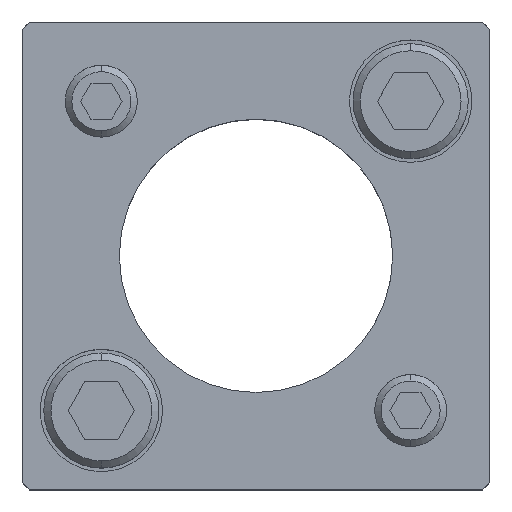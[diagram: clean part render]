
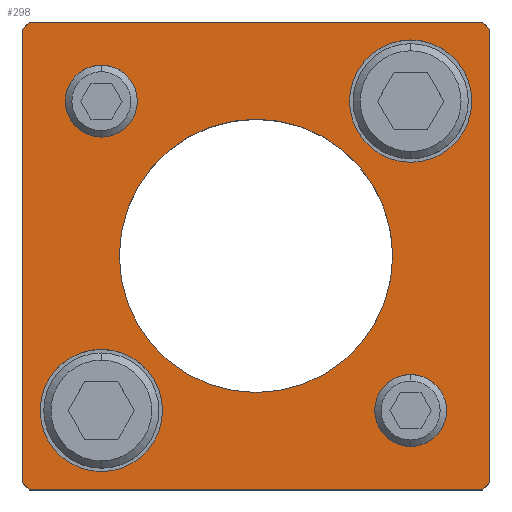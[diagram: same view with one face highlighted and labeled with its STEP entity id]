
A CAD part, top view. The second image highlights one B-rep face of the part: STEP entity #298.
In plain terms, the highlighted planar face has unit normal (0, 0, 1).
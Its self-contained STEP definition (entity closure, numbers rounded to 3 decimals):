
#155=PLANE('',#2461);
#222=FACE_BOUND('',#611,.T.);
#223=FACE_BOUND('',#612,.T.);
#224=FACE_BOUND('',#613,.T.);
#225=FACE_BOUND('',#614,.T.);
#226=FACE_BOUND('',#615,.T.);
#227=FACE_BOUND('',#616,.T.);
#298=ADVANCED_FACE('',(#222,#223,#224,#225,#226,#227),#155,.T.);
#611=EDGE_LOOP('',(#1294,#1295,#1296,#1297,#1298,#1299,#1300,#1301));
#612=EDGE_LOOP('',(#1302,#1303));
#613=EDGE_LOOP('',(#1304,#1305));
#614=EDGE_LOOP('',(#1306,#1307));
#615=EDGE_LOOP('',(#1308,#1309));
#616=EDGE_LOOP('',(#1310,#1311));
#763=LINE('',#3582,#950);
#764=LINE('',#3585,#951);
#765=LINE('',#3587,#952);
#766=LINE('',#3589,#953);
#767=LINE('',#3591,#954);
#768=LINE('',#3593,#955);
#769=LINE('',#3595,#956);
#770=LINE('',#3597,#957);
#950=VECTOR('',#2866,1.);
#951=VECTOR('',#2867,1.);
#952=VECTOR('',#2868,1.);
#953=VECTOR('',#2869,1.);
#954=VECTOR('',#2870,1.);
#955=VECTOR('',#2871,1.);
#956=VECTOR('',#2872,1.);
#957=VECTOR('',#2873,1.);
#1294=ORIENTED_EDGE('',*,*,#2028,.T.);
#1295=ORIENTED_EDGE('',*,*,#2029,.T.);
#1296=ORIENTED_EDGE('',*,*,#2030,.T.);
#1297=ORIENTED_EDGE('',*,*,#2031,.T.);
#1298=ORIENTED_EDGE('',*,*,#2032,.T.);
#1299=ORIENTED_EDGE('',*,*,#2033,.T.);
#1300=ORIENTED_EDGE('',*,*,#2034,.T.);
#1301=ORIENTED_EDGE('',*,*,#2035,.T.);
#1302=ORIENTED_EDGE('',*,*,#2036,.F.);
#1303=ORIENTED_EDGE('',*,*,#2037,.F.);
#1304=ORIENTED_EDGE('',*,*,#2038,.F.);
#1305=ORIENTED_EDGE('',*,*,#2039,.F.);
#1306=ORIENTED_EDGE('',*,*,#2014,.F.);
#1307=ORIENTED_EDGE('',*,*,#2010,.F.);
#1308=ORIENTED_EDGE('',*,*,#2008,.F.);
#1309=ORIENTED_EDGE('',*,*,#2004,.F.);
#1310=ORIENTED_EDGE('',*,*,#2040,.T.);
#1311=ORIENTED_EDGE('',*,*,#2041,.T.);
#1774=VERTEX_POINT('',#3533);
#1775=VERTEX_POINT('',#3534);
#1778=VERTEX_POINT('',#3546);
#1779=VERTEX_POINT('',#3547);
#1790=VERTEX_POINT('',#3583);
#1791=VERTEX_POINT('',#3584);
#1792=VERTEX_POINT('',#3586);
#1793=VERTEX_POINT('',#3588);
#1794=VERTEX_POINT('',#3590);
#1795=VERTEX_POINT('',#3592);
#1796=VERTEX_POINT('',#3594);
#1797=VERTEX_POINT('',#3596);
#1798=VERTEX_POINT('',#3599);
#1799=VERTEX_POINT('',#3600);
#1800=VERTEX_POINT('',#3603);
#1801=VERTEX_POINT('',#3604);
#1802=VERTEX_POINT('',#3607);
#1803=VERTEX_POINT('',#3608);
#2004=EDGE_CURVE('',#1774,#1775,#2273,.T.);
#2008=EDGE_CURVE('',#1775,#1774,#2275,.T.);
#2010=EDGE_CURVE('',#1778,#1779,#2277,.T.);
#2014=EDGE_CURVE('',#1779,#1778,#2279,.T.);
#2028=EDGE_CURVE('',#1790,#1791,#763,.T.);
#2029=EDGE_CURVE('',#1791,#1792,#764,.T.);
#2030=EDGE_CURVE('',#1792,#1793,#765,.T.);
#2031=EDGE_CURVE('',#1793,#1794,#766,.T.);
#2032=EDGE_CURVE('',#1794,#1795,#767,.T.);
#2033=EDGE_CURVE('',#1795,#1796,#768,.T.);
#2034=EDGE_CURVE('',#1796,#1797,#769,.T.);
#2035=EDGE_CURVE('',#1797,#1790,#770,.T.);
#2036=EDGE_CURVE('',#1798,#1799,#2289,.T.);
#2037=EDGE_CURVE('',#1799,#1798,#2290,.T.);
#2038=EDGE_CURVE('',#1800,#1801,#2291,.T.);
#2039=EDGE_CURVE('',#1801,#1800,#2292,.T.);
#2040=EDGE_CURVE('',#1802,#1803,#2293,.T.);
#2041=EDGE_CURVE('',#1803,#1802,#2294,.T.);
#2273=CIRCLE('',#2429,5.);
#2275=CIRCLE('',#2432,5.);
#2277=CIRCLE('',#2436,5.);
#2279=CIRCLE('',#2439,5.);
#2289=CIRCLE('',#2455,8.5);
#2290=CIRCLE('',#2456,8.5);
#2291=CIRCLE('',#2457,8.5);
#2292=CIRCLE('',#2458,8.5);
#2293=CIRCLE('',#2459,19.);
#2294=CIRCLE('',#2460,19.);
#2429=AXIS2_PLACEMENT_3D('',#3532,#2806,#2807);
#2432=AXIS2_PLACEMENT_3D('',#3541,#2814,#2815);
#2436=AXIS2_PLACEMENT_3D('',#3545,#2822,#2823);
#2439=AXIS2_PLACEMENT_3D('',#3554,#2830,#2831);
#2455=AXIS2_PLACEMENT_3D('',#3598,#2874,#2875);
#2456=AXIS2_PLACEMENT_3D('',#3601,#2876,#2877);
#2457=AXIS2_PLACEMENT_3D('',#3602,#2878,#2879);
#2458=AXIS2_PLACEMENT_3D('',#3605,#2880,#2881);
#2459=AXIS2_PLACEMENT_3D('',#3606,#2882,#2883);
#2460=AXIS2_PLACEMENT_3D('',#3609,#2884,#2885);
#2461=AXIS2_PLACEMENT_3D('',#3610,#2886,#2887);
#2806=DIRECTION('',(0.,0.,1.));
#2807=DIRECTION('',(-1.,0.,0.));
#2814=DIRECTION('',(0.,0.,1.));
#2815=DIRECTION('',(1.,0.,0.));
#2822=DIRECTION('',(0.,0.,1.));
#2823=DIRECTION('',(-1.,0.,0.));
#2830=DIRECTION('',(0.,0.,1.));
#2831=DIRECTION('',(1.,0.,0.));
#2866=DIRECTION('',(0.707,0.707,0.));
#2867=DIRECTION('',(0.,1.,0.));
#2868=DIRECTION('',(-0.707,0.707,0.));
#2869=DIRECTION('',(-1.,0.,0.));
#2870=DIRECTION('',(-0.707,-0.707,0.));
#2871=DIRECTION('',(0.,-1.,0.));
#2872=DIRECTION('',(0.707,-0.707,0.));
#2873=DIRECTION('',(1.,0.,0.));
#2874=DIRECTION('',(0.,0.,1.));
#2875=DIRECTION('',(1.,0.,0.));
#2876=DIRECTION('',(0.,0.,1.));
#2877=DIRECTION('',(-1.,0.,0.));
#2878=DIRECTION('',(0.,0.,1.));
#2879=DIRECTION('',(1.,0.,0.));
#2880=DIRECTION('',(0.,0.,1.));
#2881=DIRECTION('',(-1.,0.,0.));
#2882=DIRECTION('',(0.,0.,-1.));
#2883=DIRECTION('',(-1.,0.,0.));
#2884=DIRECTION('',(0.,0.,-1.));
#2885=DIRECTION('',(1.,0.,0.));
#2886=DIRECTION('',(0.,0.,1.));
#2887=DIRECTION('',(-1.,0.,0.));
#3532=CARTESIAN_POINT('',(21.5,-21.5,30.));
#3533=CARTESIAN_POINT('',(21.5,-26.5,30.));
#3534=CARTESIAN_POINT('',(21.5,-16.5,30.));
#3541=CARTESIAN_POINT('',(21.5,-21.5,30.));
#3545=CARTESIAN_POINT('',(-21.5,21.5,30.));
#3546=CARTESIAN_POINT('',(-21.5,16.5,30.));
#3547=CARTESIAN_POINT('',(-21.5,26.5,30.));
#3554=CARTESIAN_POINT('',(-21.5,21.5,30.));
#3582=CARTESIAN_POINT('',(31.5,-32.5,30.));
#3583=CARTESIAN_POINT('',(31.5,-32.5,30.));
#3584=CARTESIAN_POINT('',(32.5,-31.5,30.));
#3585=CARTESIAN_POINT('',(32.5,31.5,30.));
#3586=CARTESIAN_POINT('',(32.5,31.5,30.));
#3587=CARTESIAN_POINT('',(32.5,31.5,30.));
#3588=CARTESIAN_POINT('',(31.5,32.5,30.));
#3589=CARTESIAN_POINT('',(-31.5,32.5,30.));
#3590=CARTESIAN_POINT('',(-31.5,32.5,30.));
#3591=CARTESIAN_POINT('',(-31.5,32.5,30.));
#3592=CARTESIAN_POINT('',(-32.5,31.5,30.));
#3593=CARTESIAN_POINT('',(-32.5,31.5,30.));
#3594=CARTESIAN_POINT('',(-32.5,-31.5,30.));
#3595=CARTESIAN_POINT('',(-32.5,-31.5,30.));
#3596=CARTESIAN_POINT('',(-31.5,-32.5,30.));
#3597=CARTESIAN_POINT('',(-31.5,-32.5,30.));
#3598=CARTESIAN_POINT('',(21.5,21.5,30.));
#3599=CARTESIAN_POINT('',(21.5,30.,30.));
#3600=CARTESIAN_POINT('',(21.5,13.,30.));
#3601=CARTESIAN_POINT('',(21.5,21.5,30.));
#3602=CARTESIAN_POINT('',(-21.5,-21.5,30.));
#3603=CARTESIAN_POINT('',(-21.5,-13.,30.));
#3604=CARTESIAN_POINT('',(-21.5,-30.,30.));
#3605=CARTESIAN_POINT('',(-21.5,-21.5,30.));
#3606=CARTESIAN_POINT('',(0.,0.,30.));
#3607=CARTESIAN_POINT('',(0.,19.,30.));
#3608=CARTESIAN_POINT('',(0.,-19.,30.));
#3609=CARTESIAN_POINT('',(0.,0.,30.));
#3610=CARTESIAN_POINT('',(31.5,-32.5,30.));
